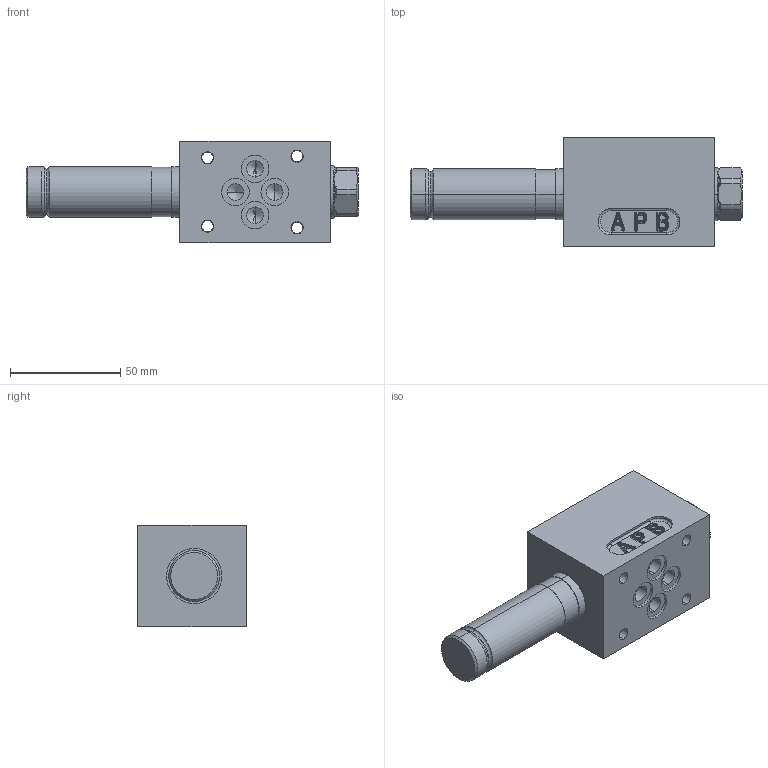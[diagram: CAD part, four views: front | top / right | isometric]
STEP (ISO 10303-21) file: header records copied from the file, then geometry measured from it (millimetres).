
FILE_DESCRIPTION (( 'STEP AP214' ), '1' );
FILE_NAME ('WDMFA06-4_2-Aside.STEP', '2015-10-22T08:13:13', ( '' ), ( '' ), 'SwSTEP 2.0', 'SolidWorks 2014', '' );
FILE_SCHEMA (( 'AUTOMOTIVE_DESIGN' ));
Length unit declared in the file: millimetre
Products named in the file (2): WDMFA06-4_2-Aside
Bounding box: 150.3 x 49 x 46 mm (x, y, z)
Volume: 177592 mm3; surface area: 30565.7 mm2
Topology: 3 solids, 4 shells, 520 faces, 1193 edges, 662 vertices
Faces by surface type: cylinder 213, plane 93, torus 79, sphere 57, bspline 52, cone 26
Entity records: 23037 total; most frequent: CARTESIAN_POINT 5843, DIRECTION 2575, ORIENTED_EDGE 2278, EDGE_CURVE 1139, AXIS2_PLACEMENT_3D 1090, VERTEX_POINT 661, CIRCLE 620, EDGE_LOOP 568
